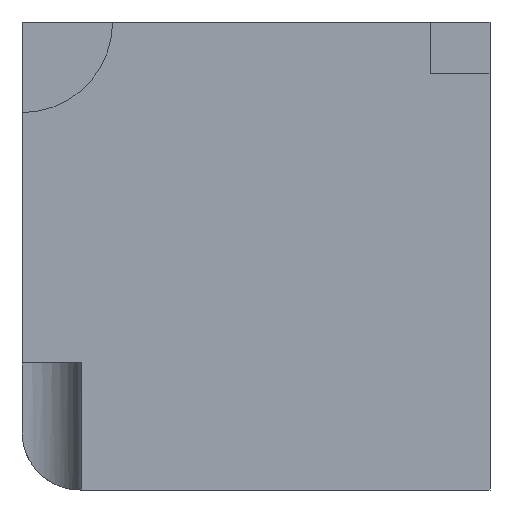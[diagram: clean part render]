
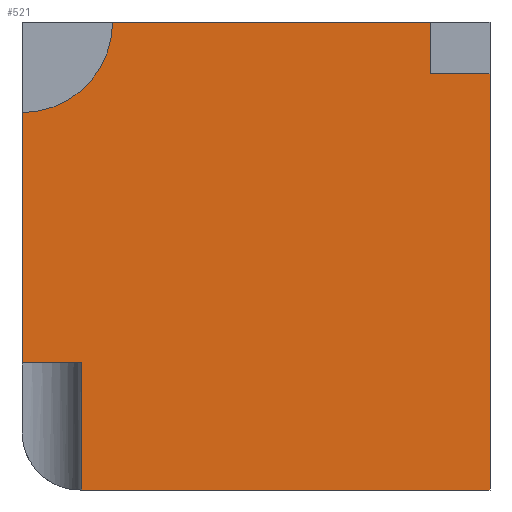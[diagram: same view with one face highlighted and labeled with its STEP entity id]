
A CAD part, front view. The second image highlights one B-rep face of the part: STEP entity #521.
In plain terms, the highlighted planar face has unit normal (0, -1, 0).
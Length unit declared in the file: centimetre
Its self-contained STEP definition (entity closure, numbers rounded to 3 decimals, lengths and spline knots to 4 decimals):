
#3 = VECTOR ( 'NONE', #227, 100. ) ;
#7 = CARTESIAN_POINT ( 'NONE',  ( 873.2015, 0., 889.5695 ) ) ;
#16 = DIRECTION ( 'NONE',  ( 0., 1., 0. ) ) ;
#19 = VECTOR ( 'NONE', #1063, 100. ) ;
#40 = CARTESIAN_POINT ( 'NONE',  ( 127.1591, 0., 271.4014 ) ) ;
#58 = CARTESIAN_POINT ( 'NONE',  ( 0., 0., 271.4014 ) ) ;
#63 = ORIENTED_EDGE ( 'NONE', *, *, #748, .F. ) ;
#67 = DIRECTION ( 'NONE',  ( -1., 0., 0. ) ) ;
#68 = ORIENTED_EDGE ( 'NONE', *, *, #1018, .F. ) ;
#74 = ORIENTED_EDGE ( 'NONE', *, *, #778, .F. ) ;
#123 = EDGE_CURVE ( 'NONE', #968, #498, #742, .T. ) ;
#159 = EDGE_CURVE ( 'NONE', #269, #394, #359, .T. ) ;
#161 = ORIENTED_EDGE ( 'NONE', *, *, #322, .F. ) ;
#194 = VERTEX_POINT ( 'NONE', #916 ) ;
#195 = CARTESIAN_POINT ( 'NONE',  ( 873.2015, 0., 889.5695 ) ) ;
#227 = DIRECTION ( 'NONE',  ( 0., 0., -1. ) ) ;
#240 = LINE ( 'NONE', #1350, #264 ) ;
#264 = VECTOR ( 'NONE', #1197, 100. ) ;
#268 = LINE ( 'NONE', #614, #1262 ) ;
#269 = VERTEX_POINT ( 'NONE', #604 ) ;
#322 = EDGE_CURVE ( 'NONE', #1228, #394, #808, .T. ) ;
#346 = FACE_OUTER_BOUND ( 'NONE', #1131, .T. ) ;
#350 = ORIENTED_EDGE ( 'NONE', *, *, #159, .T. ) ;
#359 = LINE ( 'NONE', #672, #1154 ) ;
#374 = CARTESIAN_POINT ( 'NONE',  ( 127.1591, 0., 0. ) ) ;
#394 = VERTEX_POINT ( 'NONE', #58 ) ;
#397 = VECTOR ( 'NONE', #1135, 100. ) ;
#433 = CARTESIAN_POINT ( 'NONE',  ( 0., 0., 1000. ) ) ;
#441 = EDGE_CURVE ( 'NONE', #269, #499, #1176, .T. ) ;
#450 = CARTESIAN_POINT ( 'NONE',  ( 1000., 0., 1000. ) ) ;
#490 = DIRECTION ( 'NONE',  ( 0., 0., -1. ) ) ;
#498 = VERTEX_POINT ( 'NONE', #883 ) ;
#499 = VERTEX_POINT ( 'NONE', #978 ) ;
#520 = LINE ( 'NONE', #195, #706 ) ;
#521 = ADVANCED_FACE ( 'NONE', ( #346 ), #773, .F. ) ;
#536 = CARTESIAN_POINT ( 'NONE',  ( 0., 0., 1000. ) ) ;
#556 = EDGE_CURVE ( 'NONE', #1142, #498, #576, .T. ) ;
#576 = LINE ( 'NONE', #450, #3 ) ;
#586 = CARTESIAN_POINT ( 'NONE',  ( 873.2015, 0., 889.5695 ) ) ;
#604 = CARTESIAN_POINT ( 'NONE',  ( 0., 0., 806.3322 ) ) ;
#614 = CARTESIAN_POINT ( 'NONE',  ( 127.1591, 0., 271.4014 ) ) ;
#636 = CARTESIAN_POINT ( 'NONE',  ( 0., 0., 0. ) ) ;
#640 = DIRECTION ( 'NONE',  ( 0., -1., 0. ) ) ;
#659 = ORIENTED_EDGE ( 'NONE', *, *, #123, .T. ) ;
#672 = CARTESIAN_POINT ( 'NONE',  ( 0., 0., 1000. ) ) ;
#683 = ORIENTED_EDGE ( 'NONE', *, *, #965, .T. ) ;
#706 = VECTOR ( 'NONE', #1174, 100. ) ;
#732 = ORIENTED_EDGE ( 'NONE', *, *, #556, .F. ) ;
#742 = LINE ( 'NONE', #636, #19 ) ;
#748 = EDGE_CURVE ( 'NONE', #499, #194, #240, .T. ) ;
#773 = PLANE ( 'NONE',  #776 ) ;
#776 = AXIS2_PLACEMENT_3D ( 'NONE', #433, #16, #1072 ) ;
#778 = EDGE_CURVE ( 'NONE', #194, #1036, #1206, .T. ) ;
#808 = LINE ( 'NONE', #1349, #1246 ) ;
#868 = CARTESIAN_POINT ( 'NONE',  ( 1000., 0., 889.5695 ) ) ;
#883 = CARTESIAN_POINT ( 'NONE',  ( 1000., 0., 0. ) ) ;
#894 = ORIENTED_EDGE ( 'NONE', *, *, #441, .F. ) ;
#916 = CARTESIAN_POINT ( 'NONE',  ( 873.2015, 0., 1000. ) ) ;
#919 = DIRECTION ( 'NONE',  ( 0., 0., -1. ) ) ;
#965 = EDGE_CURVE ( 'NONE', #1228, #968, #268, .T. ) ;
#968 = VERTEX_POINT ( 'NONE', #374 ) ;
#978 = CARTESIAN_POINT ( 'NONE',  ( 193.6678, 0., 1000. ) ) ;
#1018 = EDGE_CURVE ( 'NONE', #1036, #1142, #520, .T. ) ;
#1036 = VERTEX_POINT ( 'NONE', #7 ) ;
#1063 = DIRECTION ( 'NONE',  ( 1., 0., 0. ) ) ;
#1072 = DIRECTION ( 'NONE',  ( 0., 0., 1. ) ) ;
#1131 = EDGE_LOOP ( 'NONE', ( #161, #683, #659, #732, #68, #74, #63, #894, #350 ) ) ;
#1135 = DIRECTION ( 'NONE',  ( 0., 0., -1. ) ) ;
#1142 = VERTEX_POINT ( 'NONE', #868 ) ;
#1154 = VECTOR ( 'NONE', #490, 100. ) ;
#1156 = DIRECTION ( 'NONE',  ( 0., 0., -1. ) ) ;
#1174 = DIRECTION ( 'NONE',  ( 1., 0., 0. ) ) ;
#1176 = CIRCLE ( 'NONE', #1224, 193.6678 ) ;
#1197 = DIRECTION ( 'NONE',  ( 1., 0., 0. ) ) ;
#1206 = LINE ( 'NONE', #586, #397 ) ;
#1224 = AXIS2_PLACEMENT_3D ( 'NONE', #536, #640, #1156 ) ;
#1228 = VERTEX_POINT ( 'NONE', #40 ) ;
#1246 = VECTOR ( 'NONE', #67, 100. ) ;
#1262 = VECTOR ( 'NONE', #919, 100. ) ;
#1349 = CARTESIAN_POINT ( 'NONE',  ( 0., 0., 271.4014 ) ) ;
#1350 = CARTESIAN_POINT ( 'NONE',  ( 0., 0., 1000. ) ) ;
